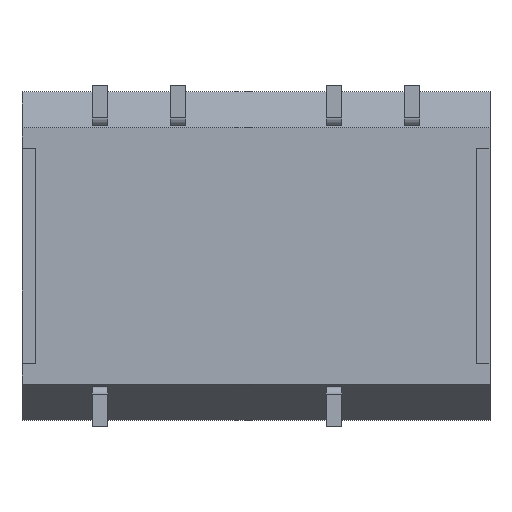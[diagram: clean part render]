
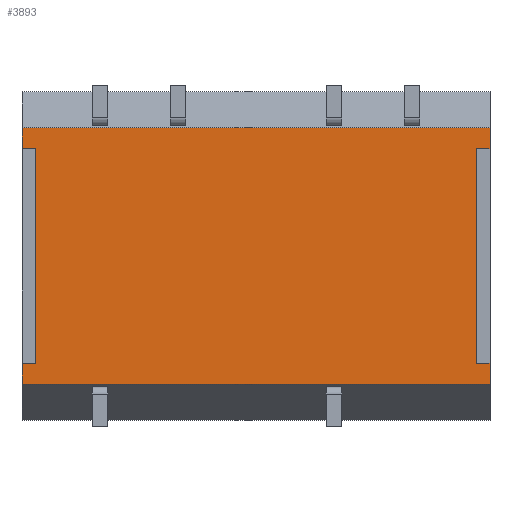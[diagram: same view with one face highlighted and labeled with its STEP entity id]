
A CAD part, front view. The second image highlights one B-rep face of the part: STEP entity #3893.
In plain terms, the highlighted planar face has unit normal (0, -1, 0).
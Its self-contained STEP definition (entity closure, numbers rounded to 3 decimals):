
#8 = ORIENTED_EDGE ( 'NONE', *, *, #1883, .T. ) ;
#26 = DIRECTION ( 'NONE',  ( 0., 0., 1. ) ) ;
#35 = VECTOR ( 'NONE', #1301, 1000. ) ;
#93 = CARTESIAN_POINT ( 'NONE',  ( 7.17, 0., -3.5 ) ) ;
#100 = AXIS2_PLACEMENT_3D ( 'NONE', #1514, #1424, #2366 ) ;
#134 = VERTEX_POINT ( 'NONE', #3070 ) ;
#140 = ORIENTED_EDGE ( 'NONE', *, *, #2723, .T. ) ;
#159 = EDGE_CURVE ( 'NONE', #1298, #894, #2385, .T. ) ;
#164 = VECTOR ( 'NONE', #1694, 1000. ) ;
#208 = EDGE_CURVE ( 'NONE', #1303, #134, #3728, .T. ) ;
#308 = CARTESIAN_POINT ( 'NONE',  ( 3.81, 0., 3.5 ) ) ;
#336 = ORIENTED_EDGE ( 'NONE', *, *, #2792, .F. ) ;
#412 = CARTESIAN_POINT ( 'NONE',  ( 3.585, 0., -3.5 ) ) ;
#438 = DIRECTION ( 'NONE',  ( 0., 0., 1. ) ) ;
#464 = LINE ( 'NONE', #2075, #3029 ) ;
#476 = EDGE_CURVE ( 'NONE', #920, #2891, #2165, .T. ) ;
#538 = VECTOR ( 'NONE', #928, 1000. ) ;
#554 = FACE_OUTER_BOUND ( 'NONE', #1945, .T. ) ;
#568 = EDGE_CURVE ( 'NONE', #2021, #3556, #3646, .T. ) ;
#587 = VECTOR ( 'NONE', #4000, 1000. ) ;
#591 = CARTESIAN_POINT ( 'NONE',  ( 7.62, 0., 0. ) ) ;
#613 = DIRECTION ( 'NONE',  ( 0., 0., -1. ) ) ;
#624 = ORIENTED_EDGE ( 'NONE', *, *, #3523, .F. ) ;
#647 = LINE ( 'NONE', #3772, #35 ) ;
#652 = CARTESIAN_POINT ( 'NONE',  ( -3.585, 0., 3.5 ) ) ;
#671 = ORIENTED_EDGE ( 'NONE', *, *, #1628, .T. ) ;
#726 = VECTOR ( 'NONE', #3547, 1000. ) ;
#752 = DIRECTION ( 'NONE',  ( -1., 0., 0. ) ) ;
#769 = ORIENTED_EDGE ( 'NONE', *, *, #1029, .T. ) ;
#771 = CARTESIAN_POINT ( 'NONE',  ( -7.17, 0., 3.5 ) ) ;
#848 = CARTESIAN_POINT ( 'NONE',  ( 7.62, 0., -3.5 ) ) ;
#894 = VERTEX_POINT ( 'NONE', #3358 ) ;
#909 = CARTESIAN_POINT ( 'NONE',  ( 7.17, 0., 3.5 ) ) ;
#920 = VERTEX_POINT ( 'NONE', #848 ) ;
#928 = DIRECTION ( 'NONE',  ( 1., 0., 0. ) ) ;
#1012 = LINE ( 'NONE', #412, #164 ) ;
#1029 = EDGE_CURVE ( 'NONE', #3556, #1282, #4023, .T. ) ;
#1057 = LINE ( 'NONE', #1417, #1982 ) ;
#1061 = VECTOR ( 'NONE', #26, 1000. ) ;
#1117 = PLANE ( 'NONE',  #100 ) ;
#1207 = VERTEX_POINT ( 'NONE', #3181 ) ;
#1282 = VERTEX_POINT ( 'NONE', #2275 ) ;
#1298 = VERTEX_POINT ( 'NONE', #771 ) ;
#1301 = DIRECTION ( 'NONE',  ( 0., 0., -1. ) ) ;
#1303 = VERTEX_POINT ( 'NONE', #3017 ) ;
#1358 = EDGE_CURVE ( 'NONE', #2459, #1207, #464, .T. ) ;
#1417 = CARTESIAN_POINT ( 'NONE',  ( -3.81, 0., -3.5 ) ) ;
#1424 = DIRECTION ( 'NONE',  ( 0., -1., 0. ) ) ;
#1489 = CARTESIAN_POINT ( 'NONE',  ( -7.17, 0., 0.341 ) ) ;
#1514 = CARTESIAN_POINT ( 'NONE',  ( 0., 0., 4.181 ) ) ;
#1628 = EDGE_CURVE ( 'NONE', #894, #134, #1057, .T. ) ;
#1694 = DIRECTION ( 'NONE',  ( -1., 0., 0. ) ) ;
#1726 = VERTEX_POINT ( 'NONE', #3885 ) ;
#1745 = EDGE_CURVE ( 'NONE', #2891, #1303, #2072, .T. ) ;
#1883 = EDGE_CURVE ( 'NONE', #1726, #1298, #2785, .T. ) ;
#1945 = EDGE_LOOP ( 'NONE', ( #8, #2274, #671, #3978, #2863, #2012, #140, #3101, #769, #624, #2977, #336 ) ) ;
#1982 = VECTOR ( 'NONE', #2617, 1000. ) ;
#2006 = CARTESIAN_POINT ( 'NONE',  ( -7.62, 0., -4.181 ) ) ;
#2012 = ORIENTED_EDGE ( 'NONE', *, *, #476, .F. ) ;
#2021 = VERTEX_POINT ( 'NONE', #93 ) ;
#2072 = LINE ( 'NONE', #3274, #726 ) ;
#2075 = CARTESIAN_POINT ( 'NONE',  ( 0., 0., 4.181 ) ) ;
#2165 = LINE ( 'NONE', #591, #3085 ) ;
#2274 = ORIENTED_EDGE ( 'NONE', *, *, #159, .T. ) ;
#2275 = CARTESIAN_POINT ( 'NONE',  ( 7.62, 0., 3.5 ) ) ;
#2366 = DIRECTION ( 'NONE',  ( -1., 0., 0. ) ) ;
#2375 = CARTESIAN_POINT ( 'NONE',  ( 7.17, 0., 3.841 ) ) ;
#2385 = LINE ( 'NONE', #1489, #2955 ) ;
#2459 = VERTEX_POINT ( 'NONE', #3788 ) ;
#2617 = DIRECTION ( 'NONE',  ( -1., 0., 0. ) ) ;
#2664 = LINE ( 'NONE', #2006, #2908 ) ;
#2689 = DIRECTION ( 'NONE',  ( 0., 0., -1. ) ) ;
#2723 = EDGE_CURVE ( 'NONE', #920, #2021, #1012, .T. ) ;
#2785 = LINE ( 'NONE', #652, #538 ) ;
#2792 = EDGE_CURVE ( 'NONE', #1726, #1207, #2664, .T. ) ;
#2863 = ORIENTED_EDGE ( 'NONE', *, *, #1745, .F. ) ;
#2891 = VERTEX_POINT ( 'NONE', #3407 ) ;
#2908 = VECTOR ( 'NONE', #438, 1000. ) ;
#2955 = VECTOR ( 'NONE', #2689, 1000. ) ;
#2977 = ORIENTED_EDGE ( 'NONE', *, *, #1358, .T. ) ;
#3017 = CARTESIAN_POINT ( 'NONE',  ( -7.62, 0., -4.181 ) ) ;
#3029 = VECTOR ( 'NONE', #752, 1000. ) ;
#3070 = CARTESIAN_POINT ( 'NONE',  ( -7.62, 0., -3.5 ) ) ;
#3085 = VECTOR ( 'NONE', #613, 1000. ) ;
#3101 = ORIENTED_EDGE ( 'NONE', *, *, #568, .T. ) ;
#3120 = CARTESIAN_POINT ( 'NONE',  ( -7.62, 0., -4.181 ) ) ;
#3181 = CARTESIAN_POINT ( 'NONE',  ( -7.62, 0., 4.181 ) ) ;
#3274 = CARTESIAN_POINT ( 'NONE',  ( 0., 0., -4.181 ) ) ;
#3322 = DIRECTION ( 'NONE',  ( 0., 0., 1. ) ) ;
#3358 = CARTESIAN_POINT ( 'NONE',  ( -7.17, 0., -3.5 ) ) ;
#3407 = CARTESIAN_POINT ( 'NONE',  ( 7.62, 0., -4.181 ) ) ;
#3523 = EDGE_CURVE ( 'NONE', #2459, #1282, #647, .T. ) ;
#3547 = DIRECTION ( 'NONE',  ( -1., 0., 0. ) ) ;
#3556 = VERTEX_POINT ( 'NONE', #909 ) ;
#3646 = LINE ( 'NONE', #2375, #3798 ) ;
#3728 = LINE ( 'NONE', #3120, #1061 ) ;
#3772 = CARTESIAN_POINT ( 'NONE',  ( 7.62, 0., 0. ) ) ;
#3788 = CARTESIAN_POINT ( 'NONE',  ( 7.62, 0., 4.181 ) ) ;
#3798 = VECTOR ( 'NONE', #3322, 1000. ) ;
#3885 = CARTESIAN_POINT ( 'NONE',  ( -7.62, 0., 3.5 ) ) ;
#3893 = ADVANCED_FACE ( 'NONE', ( #554 ), #1117, .T. ) ;
#3978 = ORIENTED_EDGE ( 'NONE', *, *, #208, .F. ) ;
#4000 = DIRECTION ( 'NONE',  ( 1., 0., 0. ) ) ;
#4023 = LINE ( 'NONE', #308, #587 ) ;
